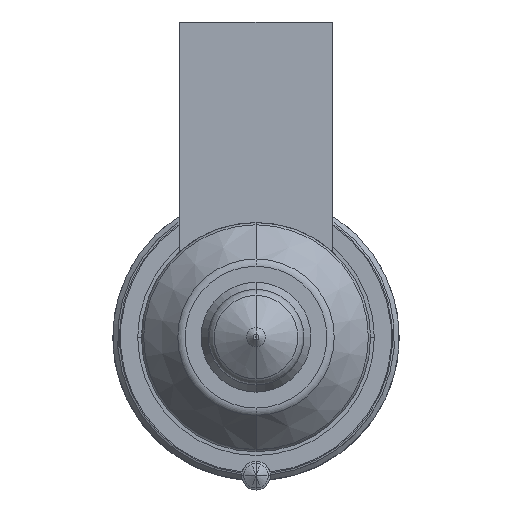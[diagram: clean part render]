
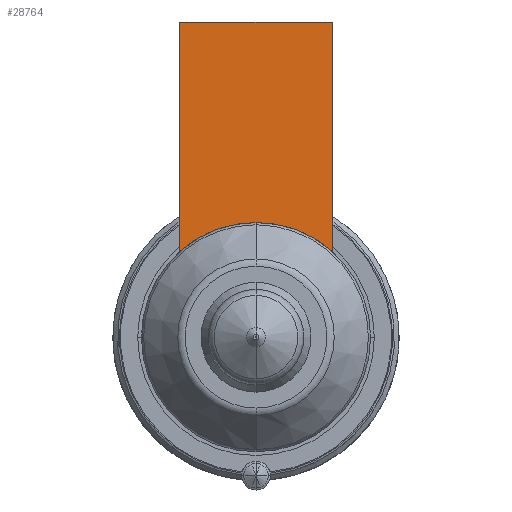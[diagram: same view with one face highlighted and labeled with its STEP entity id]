
A CAD part, front view. The second image highlights one B-rep face of the part: STEP entity #28764.
In plain terms, the highlighted planar face has unit normal (0, -1, 0).
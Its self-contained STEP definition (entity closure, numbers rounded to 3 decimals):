
#27924=DIRECTION('',(0.,0.,-1.));
#27925=VECTOR('',#27924,24.056);
#27926=CARTESIAN_POINT('',(-8.,-56.,33.));
#27927=LINE('',#27926,#27925);
#27964=DIRECTION('',(1.,0.,0.));
#27965=VECTOR('',#27964,16.);
#27966=CARTESIAN_POINT('',(-8.,-56.,33.));
#27967=LINE('',#27966,#27965);
#27971=CARTESIAN_POINT('',(0.,-56.,0.));
#27972=DIRECTION('',(0.,-1.,0.));
#27973=DIRECTION('',(0.667,0.,0.745));
#27974=AXIS2_PLACEMENT_3D('',#27971,#27972,#27973);
#27979=CARTESIAN_POINT('',(0.,-56.,0.));
#27980=DIRECTION('',(0.,-1.,0.));
#27981=DIRECTION('',(0.,0.,1.));
#27982=AXIS2_PLACEMENT_3D('',#27979,#27980,#27981);
#28015=DIRECTION('',(0.,0.,-1.));
#28016=VECTOR('',#28015,24.056);
#28017=CARTESIAN_POINT('',(8.,-56.,33.));
#28018=LINE('',#28017,#28016);
#28608=CARTESIAN_POINT('',(-8.,-56.,33.));
#28609=VERTEX_POINT('',#28608);
#28614=CARTESIAN_POINT('',(8.,-56.,33.));
#28615=VERTEX_POINT('',#28614);
#28618=CARTESIAN_POINT('',(-8.,-56.,8.944));
#28619=VERTEX_POINT('',#28618);
#28622=CARTESIAN_POINT('',(8.,-56.,8.944));
#28623=VERTEX_POINT('',#28622);
#28683=CARTESIAN_POINT('',(0.,-56.,12.));
#28684=VERTEX_POINT('',#28683);
#28749=CARTESIAN_POINT('',(-8.,-56.,33.));
#28750=DIRECTION('',(0.,-1.,0.));
#28751=DIRECTION('',(0.,0.,-1.));
#28752=AXIS2_PLACEMENT_3D('',#28749,#28750,#28751);
#28753=PLANE('',#28752);
#28754=ORIENTED_EDGE('',*,*,#28697,.F.);
#28756=ORIENTED_EDGE('',*,*,#28755,.T.);
#28758=ORIENTED_EDGE('',*,*,#28757,.T.);
#28760=ORIENTED_EDGE('',*,*,#28759,.T.);
#28761=ORIENTED_EDGE('',*,*,#28729,.T.);
#28762=EDGE_LOOP('',(#28754,#28756,#28758,#28760,#28761));
#28763=FACE_OUTER_BOUND('',#28762,.F.);
#28764=ADVANCED_FACE('',(#28763),#28753,.T.);
#27975=CIRCLE('',#27974,12.);
#27983=CIRCLE('',#27982,12.);
#28697=EDGE_CURVE('',#28609,#28619,#27927,.T.);
#28729=EDGE_CURVE('',#28684,#28619,#27983,.T.);
#28755=EDGE_CURVE('',#28609,#28615,#27967,.T.);
#28757=EDGE_CURVE('',#28615,#28623,#28018,.T.);
#28759=EDGE_CURVE('',#28623,#28684,#27975,.T.);
